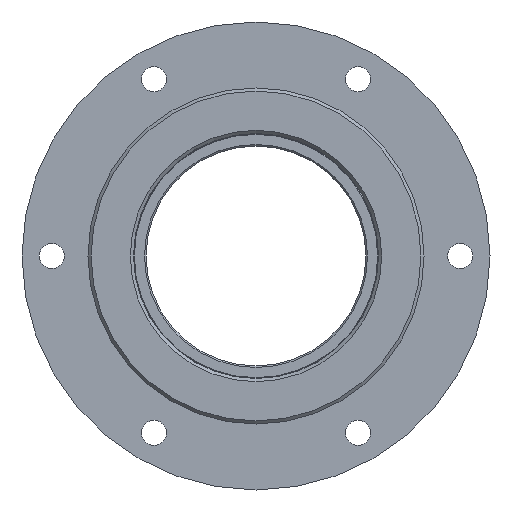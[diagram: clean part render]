
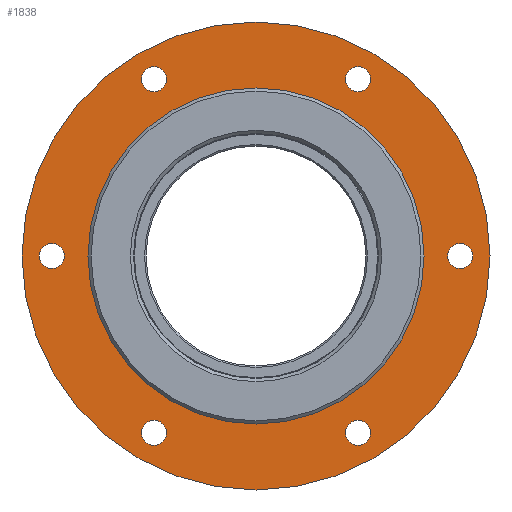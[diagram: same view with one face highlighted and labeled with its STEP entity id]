
A CAD part, front view. The second image highlights one B-rep face of the part: STEP entity #1838.
In plain terms, the highlighted planar face has unit normal (0, -1, 0).
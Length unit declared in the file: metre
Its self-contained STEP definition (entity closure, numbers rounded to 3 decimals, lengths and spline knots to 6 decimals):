
#1838=ADVANCED_FACE('',(#3391,#3392,#3393,#3394,#3395,#3396,#3397,#3398),#3399,.F.);
#3391=FACE_BOUND('',#6620,.T.);
#3392=FACE_BOUND('',#6621,.T.);
#3393=FACE_BOUND('',#6622,.T.);
#3394=FACE_BOUND('',#6623,.T.);
#3395=FACE_BOUND('',#6624,.T.);
#3396=FACE_BOUND('',#6625,.T.);
#3397=FACE_OUTER_BOUND('',#6626,.T.);
#3398=FACE_BOUND('',#6627,.T.);
#3399=PLANE('',#6628);
#6620=EDGE_LOOP('',(#8898));
#6621=EDGE_LOOP('',(#8899));
#6622=EDGE_LOOP('',(#8900));
#6623=EDGE_LOOP('',(#8901));
#6624=EDGE_LOOP('',(#8902));
#6625=EDGE_LOOP('',(#8903));
#6626=EDGE_LOOP('',(#8904));
#6627=EDGE_LOOP('',(#8905));
#6628=AXIS2_PLACEMENT_3D('',#8906,#8907,#8908);
#8898=ORIENTED_EDGE('',*,*,#9320,.T.);
#8899=ORIENTED_EDGE('',*,*,#9321,.T.);
#8900=ORIENTED_EDGE('',*,*,#9185,.T.);
#8901=ORIENTED_EDGE('',*,*,#9322,.T.);
#8902=ORIENTED_EDGE('',*,*,#9290,.T.);
#8903=ORIENTED_EDGE('',*,*,#9298,.T.);
#8904=ORIENTED_EDGE('',*,*,#9227,.F.);
#8905=ORIENTED_EDGE('',*,*,#9211,.T.);
#8906=CARTESIAN_POINT('',(0.53551,0.503374,0.0));
#8907=DIRECTION('',(0.0,1.0,0.0));
#8908=DIRECTION('',(0.0,0.0,1.0));
#9185=EDGE_CURVE('',#9339,#9339,#9340,.T.);
#9211=EDGE_CURVE('',#9386,#9386,#9387,.T.);
#9227=EDGE_CURVE('',#9413,#9413,#9414,.T.);
#9290=EDGE_CURVE('',#9504,#9504,#9505,.T.);
#9298=EDGE_CURVE('',#9514,#9514,#9515,.T.);
#9320=EDGE_CURVE('',#9541,#9541,#9542,.T.);
#9321=EDGE_CURVE('',#9543,#9543,#9544,.T.);
#9322=EDGE_CURVE('',#9545,#9545,#9546,.T.);
#9339=VERTEX_POINT('',#9563);
#9340=CIRCLE('',#9564,0.004);
#9386=VERTEX_POINT('',#9639);
#9387=CIRCLE('',#9640,0.0535);
#9413=VERTEX_POINT('',#9671);
#9414=CIRCLE('',#9672,0.0745);
#9504=VERTEX_POINT('',#9839);
#9505=CIRCLE('',#9840,0.004);
#9514=VERTEX_POINT('',#9849);
#9515=CIRCLE('',#9850,0.004);
#9541=VERTEX_POINT('',#9881);
#9542=CIRCLE('',#9882,0.004);
#9543=VERTEX_POINT('',#9883);
#9544=CIRCLE('',#9884,0.004);
#9545=VERTEX_POINT('',#9885);
#9546=CIRCLE('',#9886,0.004);
#9563=CARTESIAN_POINT('',(0.65401,0.503374,0.004));
#9564=AXIS2_PLACEMENT_3D('',#9903,#9904,#9905);
#9639=CARTESIAN_POINT('',(0.58901,0.503374,0.0535));
#9640=AXIS2_PLACEMENT_3D('',#9949,#9950,#9951);
#9671=CARTESIAN_POINT('',(0.58901,0.503374,0.0745));
#9672=AXIS2_PLACEMENT_3D('',#9975,#9976,#9977);
#9839=CARTESIAN_POINT('',(0.55651,0.503374,-0.052292));
#9840=AXIS2_PLACEMENT_3D('',#10064,#10065,#10066);
#9849=CARTESIAN_POINT('',(0.52401,0.503374,0.004));
#9850=AXIS2_PLACEMENT_3D('',#10076,#10077,#10078);
#9881=CARTESIAN_POINT('',(0.55651,0.503374,0.060292));
#9882=AXIS2_PLACEMENT_3D('',#10102,#10103,#10104);
#9883=CARTESIAN_POINT('',(0.62151,0.503374,0.060292));
#9884=AXIS2_PLACEMENT_3D('',#10105,#10106,#10107);
#9885=CARTESIAN_POINT('',(0.62151,0.503374,-0.052292));
#9886=AXIS2_PLACEMENT_3D('',#10108,#10109,#10110);
#9903=CARTESIAN_POINT('',(0.65401,0.503374,0.));
#9904=DIRECTION('',(0.0,1.0,0.0));
#9905=DIRECTION('',(0.0,0.0,1.0));
#9949=CARTESIAN_POINT('',(0.58901,0.503374,0.0));
#9950=DIRECTION('',(0.0,1.0,0.0));
#9951=DIRECTION('',(0.0,0.0,1.0));
#9975=CARTESIAN_POINT('',(0.58901,0.503374,0.0));
#9976=DIRECTION('',(0.0,1.0,0.0));
#9977=DIRECTION('',(0.0,0.0,1.0));
#10064=CARTESIAN_POINT('',(0.55651,0.503374,-0.056292));
#10065=DIRECTION('',(0.0,1.0,0.0));
#10066=DIRECTION('',(0.0,0.0,1.0));
#10076=CARTESIAN_POINT('',(0.52401,0.503374,0.0));
#10077=DIRECTION('',(0.0,1.0,0.0));
#10078=DIRECTION('',(0.0,0.0,1.0));
#10102=CARTESIAN_POINT('',(0.55651,0.503374,0.056292));
#10103=DIRECTION('',(0.0,1.0,0.0));
#10104=DIRECTION('',(0.0,0.0,1.0));
#10105=CARTESIAN_POINT('',(0.62151,0.503374,0.056292));
#10106=DIRECTION('',(0.0,1.0,0.0));
#10107=DIRECTION('',(0.0,0.0,1.0));
#10108=CARTESIAN_POINT('',(0.62151,0.503374,-0.056292));
#10109=DIRECTION('',(0.0,1.0,0.0));
#10110=DIRECTION('',(0.0,0.0,1.0));
